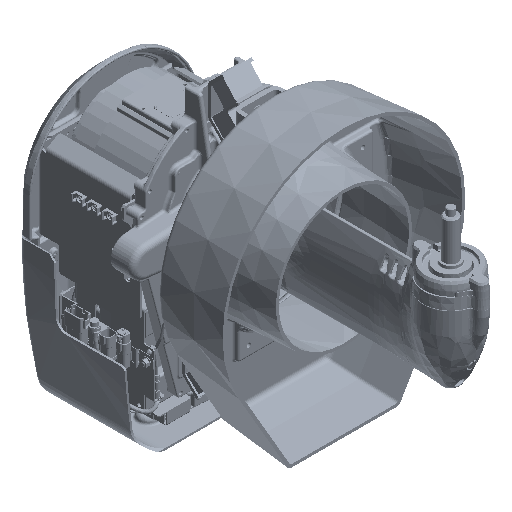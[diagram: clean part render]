
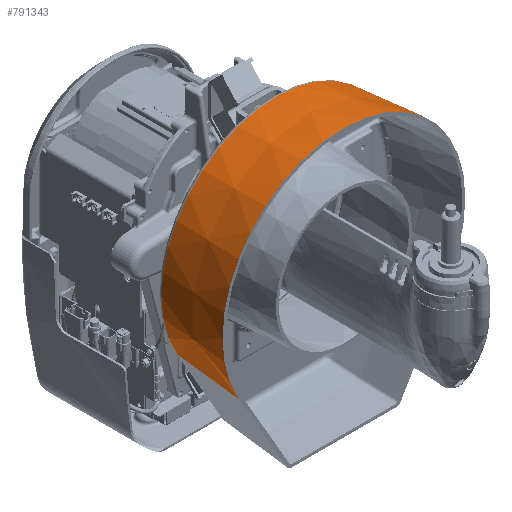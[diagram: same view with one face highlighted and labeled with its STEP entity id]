
A CAD part, isometric view. The second image highlights one B-rep face of the part: STEP entity #791343.
In plain terms, the highlighted conical face has half-angle 5 degrees and reference radius 240.742 mm.
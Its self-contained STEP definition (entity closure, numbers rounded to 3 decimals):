
#786649=DIRECTION('',(0.075,-0.996,-0.044));
#786650=VECTOR('',#786649,136.391);
#786651=CARTESIAN_POINT('',(202.997,-119.128,
-117.994));
#786652=LINE('',#786651,#786650);
#786661=CARTESIAN_POINT('',(0.,-255.,0.));
#786662=DIRECTION('',(0.,1.,0.));
#786663=DIRECTION('',(-0.865,0.,-0.503));
#786664=AXIS2_PLACEMENT_3D('',#786661,#786662,#786663);
#786666=DIRECTION('',(-0.075,-0.996,
-0.044));
#786667=VECTOR('',#786666,136.391);
#786668=CARTESIAN_POINT('',(-202.997,-119.128,
-117.994));
#786669=LINE('',#786668,#786667);
#786670=CARTESIAN_POINT('',(0.,-119.128,0.));
#786671=DIRECTION('',(0.,1.,0.));
#786672=DIRECTION('',(-0.865,0.,-0.503));
#786673=AXIS2_PLACEMENT_3D('',#786670,#786671,#786672);
#790640=CARTESIAN_POINT('',(-202.997,-119.128,
-117.994));
#790641=CARTESIAN_POINT('',(202.997,-119.128,
-117.994));
#790642=VERTEX_POINT('',#790640);
#790643=VERTEX_POINT('',#790641);
#790664=CARTESIAN_POINT('',(213.275,-255.,-123.967));
#790666=VERTEX_POINT('',#790664);
#790673=CARTESIAN_POINT('',(-213.275,-255.,-123.967));
#790675=VERTEX_POINT('',#790673);
#791331=CARTESIAN_POINT('',(0.,-187.064,0.));
#791332=DIRECTION('',(0.,-1.,0.));
#791333=DIRECTION('',(0.,0.,-1.));
#791334=AXIS2_PLACEMENT_3D('',#791331,#791332,#791333);
#791335=CONICAL_SURFACE('',#791334,240.742,5.);
#791336=ORIENTED_EDGE('',*,*,#791281,.F.);
#791338=ORIENTED_EDGE('',*,*,#791337,.F.);
#791339=ORIENTED_EDGE('',*,*,#791218,.T.);
#791340=ORIENTED_EDGE('',*,*,#791324,.T.);
#791341=EDGE_LOOP('',(#791336,#791338,#791339,#791340));
#791342=FACE_OUTER_BOUND('',#791341,.F.);
#791343=ADVANCED_FACE('',(#791342),#791335,.T.);
#786665=CIRCLE('',#786664,246.686);
#786674=CIRCLE('',#786673,234.799);
#791218=EDGE_CURVE('',#790642,#790643,#786674,.T.);
#791281=EDGE_CURVE('',#790675,#790666,#786665,.T.);
#791324=EDGE_CURVE('',#790643,#790666,#786652,.T.);
#791337=EDGE_CURVE('',#790642,#790675,#786669,.T.);
